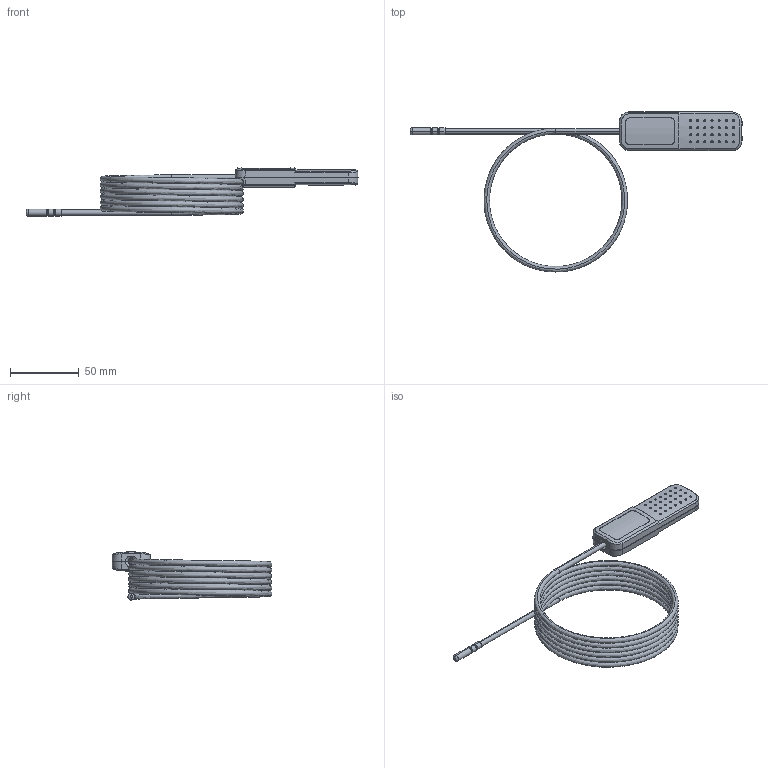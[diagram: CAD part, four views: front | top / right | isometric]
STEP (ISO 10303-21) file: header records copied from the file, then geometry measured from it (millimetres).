
FILE_DESCRIPTION (( 'STEP AP214' ), '1' );
FILE_NAME ('TMP300.STEP', '2026-07-09T23:58:16', ( '' ), ( '' ), 'SwSTEP 2.0', 'SolidWorks 2021', '' );
FILE_SCHEMA (( 'AUTOMOTIVE_DESIGN' ));
Length unit declared in the file: millimetre
Products named in the file (1): TMP300
Bounding box: 240.73 x 115.99 x 35 mm (x, y, z)
Volume: 53881.9 mm3; surface area: 33188.1 mm2
Topology: 3 solids, 3 shells, 835 faces, 2138 edges, 1410 vertices
Faces by surface type: bspline 342, plane 342, cylinder 135, torus 12, cone 4
Entity records: 43479 total; most frequent: CARTESIAN_POINT 25705, ORIENTED_EDGE 4276, DIRECTION 2602, EDGE_CURVE 2138, VERTEX_POINT 1410, VECTOR 970, LINE 970, EDGE_LOOP 936
